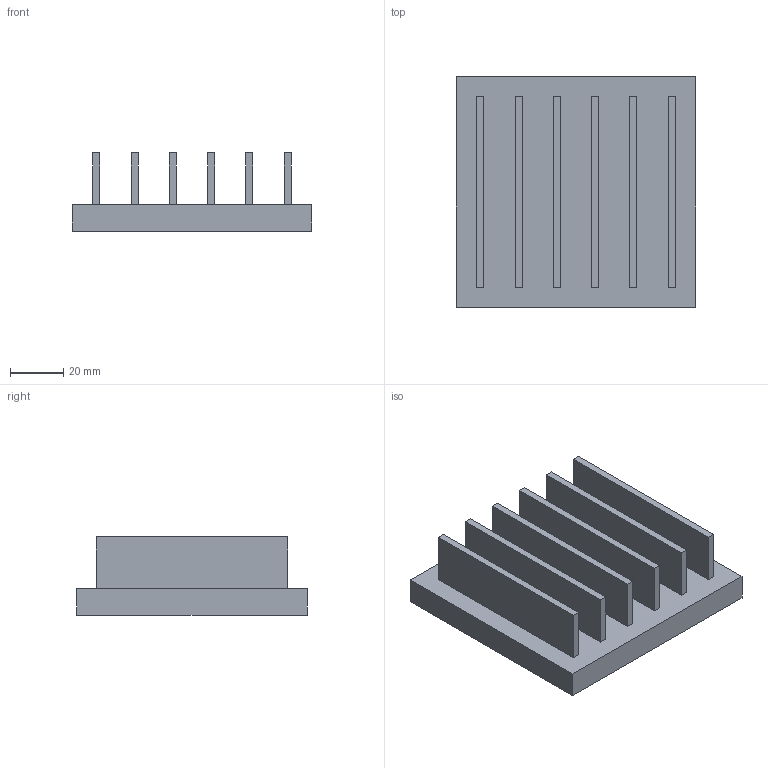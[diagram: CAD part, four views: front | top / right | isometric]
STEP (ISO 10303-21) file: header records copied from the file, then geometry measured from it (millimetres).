
FILE_DESCRIPTION(('Mechanical CAD reference from nasji.com'),'2;1');
FILE_NAME('NASJI.step','',(''),(''),'','NASJI distribution','');
FILE_SCHEMA(('AUTOMOTIVE_DESIGN { 1 0 10303 214 1 1 1 1 }'));
Length unit declared in the file: millimetre
Products named in the file (1): Open CASCADE STEP translator 7.8 197
Bounding box: 90 x 86.7 x 29.5 mm (x, y, z)
Volume: 100774.8 mm3; surface area: 36619.8 mm2
Topology: 1 solids, 1 shells, 36 faces, 84 edges, 56 vertices
Faces by surface type: plane 36
Entity records: 2110 total; most frequent: CARTESIAN_POINT 345, DIRECTION 326, LINE 252, VECTOR 252, ORIENTED_EDGE 168, PCURVE 168, DEFINITIONAL_REPRESENTATION 168, EDGE_CURVE 84
